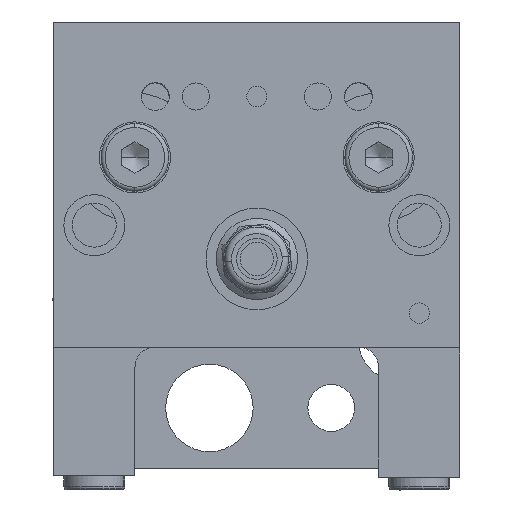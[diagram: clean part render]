
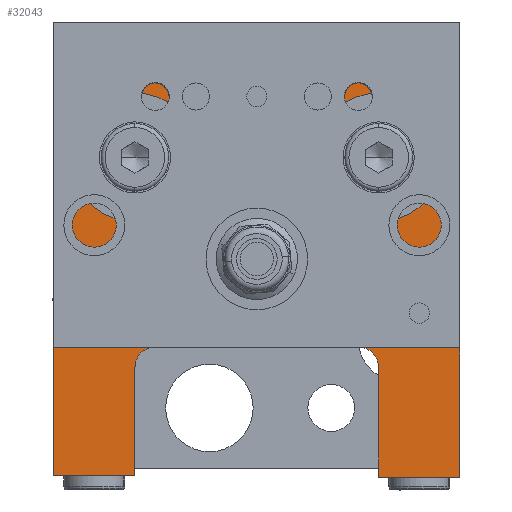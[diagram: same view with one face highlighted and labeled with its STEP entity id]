
A CAD part, front view. The second image highlights one B-rep face of the part: STEP entity #32043.
In plain terms, the highlighted planar face has unit normal (0, -1, 0).
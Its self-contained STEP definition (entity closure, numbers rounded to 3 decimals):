
#24681=CARTESIAN_POINT('',(-11.,0.,0.));
#24682=VERTEX_POINT('',#24681);
#24691=CARTESIAN_POINT('',(11.,0.,0.));
#24692=VERTEX_POINT('',#24691);
#24693=CARTESIAN_POINT('',(0.,0.,0.));
#24694=DIRECTION('',(0.0,1.0,0.0));
#24695=DIRECTION('',(-1.0,0.0,0.0));
#24696=AXIS2_PLACEMENT_3D('',#24693,#24694,#24695);
#24697=CIRCLE('',#24696,11.0);
#24698=EDGE_CURVE('',#24692,#24682,#24697,.T.);
#24995=CARTESIAN_POINT('',(-5.,0.,24.));
#24996=VERTEX_POINT('',#24995);
#25003=CARTESIAN_POINT('',(5.,0.,24.));
#25004=VERTEX_POINT('',#25003);
#25005=CARTESIAN_POINT('',(0.,0.,24.));
#25006=DIRECTION('',(0.0,1.0,0.0));
#25007=DIRECTION('',(-1.0,0.0,0.0));
#25008=AXIS2_PLACEMENT_3D('',#25005,#25006,#25007);
#25009=CIRCLE('',#25008,5.0);
#25010=EDGE_CURVE('',#25004,#24996,#25009,.T.);
#25219=CARTESIAN_POINT('',(21.,0.,-8.218));
#25220=VERTEX_POINT('',#25219);
#25227=CARTESIAN_POINT('',(27.,0.,-8.218));
#25228=VERTEX_POINT('',#25227);
#25229=CARTESIAN_POINT('',(24.,0.,-8.218));
#25230=DIRECTION('',(0.0,1.0,0.0));
#25231=DIRECTION('',(-1.0,0.0,0.0));
#25232=AXIS2_PLACEMENT_3D('',#25229,#25230,#25231);
#25233=CIRCLE('',#25232,3.);
#25234=EDGE_CURVE('',#25228,#25220,#25233,.T.);
#26469=CARTESIAN_POINT('',(-17.121,0.,-13.879));
#26470=VERTEX_POINT('',#26469);
#26486=CARTESIAN_POINT('',(-15.,0.,-13.));
#26487=VERTEX_POINT('',#26486);
#26494=CARTESIAN_POINT('',(-15.,0.,-16.));
#26495=DIRECTION('',(0.,-1.0,0.));
#26496=DIRECTION('',(-0.707,0.,0.707));
#26497=AXIS2_PLACEMENT_3D('',#26494,#26495,#26496);
#26498=CIRCLE('',#26497,3.);
#26499=EDGE_CURVE('',#26487,#26470,#26498,.T.);
#26511=CARTESIAN_POINT('',(17.121,0.,-13.879));
#26512=VERTEX_POINT('',#26511);
#26528=CARTESIAN_POINT('',(18.,0.,-16.));
#26529=VERTEX_POINT('',#26528);
#26536=CARTESIAN_POINT('',(15.,0.,-16.));
#26537=DIRECTION('',(0.,-1.0,0.));
#26538=DIRECTION('',(0.707,0.,0.707));
#26539=AXIS2_PLACEMENT_3D('',#26536,#26537,#26538);
#26540=CIRCLE('',#26539,3.);
#26541=EDGE_CURVE('',#26529,#26512,#26540,.T.);
#30244=CARTESIAN_POINT('',(15.,0.,-13.));
#30245=VERTEX_POINT('',#30244);
#30246=CARTESIAN_POINT('',(15.,0.,-16.));
#30247=DIRECTION('',(0.,-1.0,0.));
#30248=DIRECTION('',(0.707,0.,0.707));
#30249=AXIS2_PLACEMENT_3D('',#30246,#30247,#30248);
#30250=CIRCLE('',#30249,3.);
#30251=EDGE_CURVE('',#26512,#30245,#30250,.T.);
#30285=CARTESIAN_POINT('',(18.,0.,-32.218));
#30286=VERTEX_POINT('',#30285);
#30293=CARTESIAN_POINT('',(18.,0.,-32.218));
#30294=DIRECTION('',(0.0,0.0,1.0));
#30295=VECTOR('',#30294,16.218);
#30296=LINE('',#30293,#30295);
#30297=EDGE_CURVE('',#30286,#26529,#30296,.T.);
#30308=CARTESIAN_POINT('',(-18.,0.,-16.));
#30309=VERTEX_POINT('',#30308);
#30310=CARTESIAN_POINT('',(-15.,0.,-16.));
#30311=DIRECTION('',(0.,-1.0,0.));
#30312=DIRECTION('',(-0.707,0.,0.707));
#30313=AXIS2_PLACEMENT_3D('',#30310,#30311,#30312);
#30314=CIRCLE('',#30313,3.);
#30315=EDGE_CURVE('',#26470,#30309,#30314,.T.);
#30341=CARTESIAN_POINT('',(15.,0.,-13.));
#30342=DIRECTION('',(-1.0,0.0,0.0));
#30343=VECTOR('',#30342,30.0);
#30344=LINE('',#30341,#30343);
#30345=EDGE_CURVE('',#30245,#26487,#30344,.T.);
#31310=CARTESIAN_POINT('',(24.,0.,-8.218));
#31311=DIRECTION('',(0.0,1.0,0.0));
#31312=DIRECTION('',(-1.0,0.0,0.0));
#31313=AXIS2_PLACEMENT_3D('',#31310,#31311,#31312);
#31314=CIRCLE('',#31313,3.);
#31315=EDGE_CURVE('',#25220,#25228,#31314,.T.);
#31434=CARTESIAN_POINT('',(0.,0.,24.));
#31435=DIRECTION('',(0.0,1.0,0.0));
#31436=DIRECTION('',(-1.0,0.0,0.0));
#31437=AXIS2_PLACEMENT_3D('',#31434,#31435,#31436);
#31438=CIRCLE('',#31437,5.0);
#31439=EDGE_CURVE('',#24996,#25004,#31438,.T.);
#31619=CARTESIAN_POINT('',(0.,0.,0.));
#31620=DIRECTION('',(0.0,1.0,0.0));
#31621=DIRECTION('',(-1.0,0.0,0.0));
#31622=AXIS2_PLACEMENT_3D('',#31619,#31620,#31621);
#31623=CIRCLE('',#31622,11.0);
#31624=EDGE_CURVE('',#24682,#24692,#31623,.T.);
#31724=CARTESIAN_POINT('',(-30.,0.,25.));
#31725=VERTEX_POINT('',#31724);
#31726=CARTESIAN_POINT('',(-22.,0.,33.));
#31727=VERTEX_POINT('',#31726);
#31728=CARTESIAN_POINT('',(-30.,0.,25.));
#31729=DIRECTION('',(0.707,0.,0.707));
#31730=VECTOR('',#31729,11.314);
#31731=LINE('',#31728,#31730);
#31732=EDGE_CURVE('',#31725,#31727,#31731,.T.);
#31764=CARTESIAN_POINT('',(22.,0.,33.));
#31765=VERTEX_POINT('',#31764);
#31766=CARTESIAN_POINT('',(-22.,0.,33.));
#31767=DIRECTION('',(1.0,0.0,0.0));
#31768=VECTOR('',#31767,44.);
#31769=LINE('',#31766,#31768);
#31770=EDGE_CURVE('',#31727,#31765,#31769,.T.);
#31795=CARTESIAN_POINT('',(30.,0.,25.));
#31796=VERTEX_POINT('',#31795);
#31797=CARTESIAN_POINT('',(22.,0.,33.));
#31798=DIRECTION('',(0.707,0.,-0.707));
#31799=VECTOR('',#31798,11.314);
#31800=LINE('',#31797,#31799);
#31801=EDGE_CURVE('',#31765,#31796,#31800,.T.);
#31830=CARTESIAN_POINT('',(30.,0.,-32.218));
#31831=VERTEX_POINT('',#31830);
#31832=CARTESIAN_POINT('',(30.,0.,25.));
#31833=DIRECTION('',(0.0,0.0,-1.0));
#31834=VECTOR('',#31833,57.218);
#31835=LINE('',#31832,#31834);
#31836=EDGE_CURVE('',#31796,#31831,#31835,.T.);
#31865=CARTESIAN_POINT('',(30.,0.,-32.218));
#31866=DIRECTION('',(-1.0,0.0,0.0));
#31867=VECTOR('',#31866,12.);
#31868=LINE('',#31865,#31867);
#31869=EDGE_CURVE('',#31831,#30286,#31868,.T.);
#31897=CARTESIAN_POINT('',(-18.,0.,-32.));
#31898=VERTEX_POINT('',#31897);
#31899=CARTESIAN_POINT('',(-18.,0.,-16.));
#31900=DIRECTION('',(0.0,0.0,-1.0));
#31901=VECTOR('',#31900,16.);
#31902=LINE('',#31899,#31901);
#31903=EDGE_CURVE('',#30309,#31898,#31902,.T.);
#31927=CARTESIAN_POINT('',(-30.,0.,-32.));
#31928=VERTEX_POINT('',#31927);
#31929=CARTESIAN_POINT('',(-18.,0.,-32.));
#31930=DIRECTION('',(-1.0,0.0,0.0));
#31931=VECTOR('',#31930,12.0);
#31932=LINE('',#31929,#31931);
#31933=EDGE_CURVE('',#31898,#31928,#31932,.T.);
#31967=CARTESIAN_POINT('',(-30.,0.,-32.));
#31968=DIRECTION('',(0.0,0.0,1.0));
#31969=VECTOR('',#31968,57.);
#31970=LINE('',#31967,#31969);
#31971=EDGE_CURVE('',#31928,#31725,#31970,.T.);
#31988=CARTESIAN_POINT('',(0.037,0.,-1.428));
#31989=DIRECTION('',(0.0,-1.0,0.0));
#31990=DIRECTION('',(0.0,0.0,1.0));
#31991=AXIS2_PLACEMENT_3D('',#31988,#31989,#31990);
#31992=PLANE('',#31991);
#31993=ORIENTED_EDGE('',*,*,#31732,.F.);
#31994=ORIENTED_EDGE('',*,*,#31971,.F.);
#31995=ORIENTED_EDGE('',*,*,#31933,.F.);
#31996=ORIENTED_EDGE('',*,*,#31903,.F.);
#31997=ORIENTED_EDGE('',*,*,#30315,.F.);
#31998=ORIENTED_EDGE('',*,*,#26499,.F.);
#31999=ORIENTED_EDGE('',*,*,#30345,.F.);
#32000=ORIENTED_EDGE('',*,*,#30251,.F.);
#32001=ORIENTED_EDGE('',*,*,#26541,.F.);
#32002=ORIENTED_EDGE('',*,*,#30297,.F.);
#32003=ORIENTED_EDGE('',*,*,#31869,.F.);
#32004=ORIENTED_EDGE('',*,*,#31836,.F.);
#32005=ORIENTED_EDGE('',*,*,#31801,.F.);
#32006=ORIENTED_EDGE('',*,*,#31770,.F.);
#32007=EDGE_LOOP('',(#31993,#31994,#31995,#31996,#31997,#31998,#31999,#32000,#32001,#32002,#32003,#32004,#32005,#32006));
#32008=FACE_OUTER_BOUND('',#32007,.T.);
#32009=ORIENTED_EDGE('',*,*,#25234,.T.);
#32010=ORIENTED_EDGE('',*,*,#31315,.T.);
#32011=EDGE_LOOP('',(#32009,#32010));
#32012=FACE_BOUND('',#32011,.T.);
#32013=ORIENTED_EDGE('',*,*,#25010,.T.);
#32014=ORIENTED_EDGE('',*,*,#31439,.T.);
#32015=EDGE_LOOP('',(#32013,#32014));
#32016=FACE_BOUND('',#32015,.T.);
#32017=ORIENTED_EDGE('',*,*,#24698,.T.);
#32018=ORIENTED_EDGE('',*,*,#31624,.T.);
#32019=EDGE_LOOP('',(#32017,#32018));
#32020=FACE_BOUND('',#32019,.T.);
#32021=CARTESIAN_POINT('',(27.5,0.,15.));
#32022=VERTEX_POINT('',#32021);
#32023=CARTESIAN_POINT('',(18.,0.,15.));
#32024=DIRECTION('',(0.0,1.0,0.0));
#32025=DIRECTION('',(-1.0,0.0,0.0));
#32026=AXIS2_PLACEMENT_3D('',#32023,#32024,#32025);
#32027=CIRCLE('',#32026,9.5);
#32028=EDGE_CURVE('',#32022,#32022,#32027,.T.);
#32029=ORIENTED_EDGE('',*,*,#32028,.T.);
#32030=EDGE_LOOP('',(#32029));
#32031=FACE_BOUND('',#32030,.T.);
#32032=CARTESIAN_POINT('',(-8.5,0.,15.));
#32033=VERTEX_POINT('',#32032);
#32034=CARTESIAN_POINT('',(-18.,0.,15.));
#32035=DIRECTION('',(0.0,1.0,0.0));
#32036=DIRECTION('',(-1.0,0.0,0.0));
#32037=AXIS2_PLACEMENT_3D('',#32034,#32035,#32036);
#32038=CIRCLE('',#32037,9.5);
#32039=EDGE_CURVE('',#32033,#32033,#32038,.T.);
#32040=ORIENTED_EDGE('',*,*,#32039,.T.);
#32041=EDGE_LOOP('',(#32040));
#32042=FACE_BOUND('',#32041,.T.);
#32043=ADVANCED_FACE('',(#32008,#32012,#32016,#32020,#32031,#32042),#31992,.T.);
